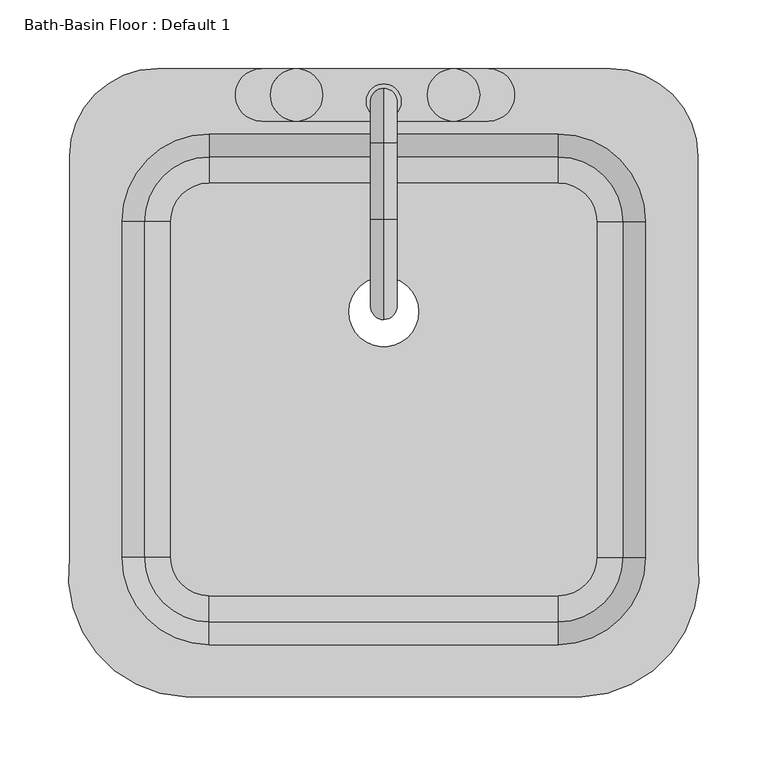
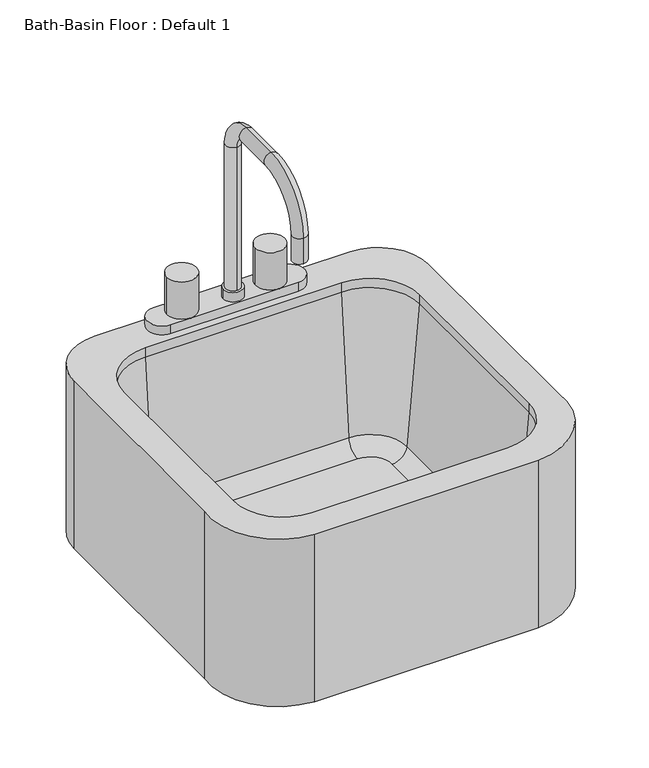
"""IFC4 building model written with IfcOpenShell, lengths in millimetres: flow terminal geometry, Bath-Basin Floor : Default 1."""

from ifc_helpers import new_model, si_unit, point, frame, origin, place, context, project, spatial, polyline, circle_curve, ellipse_curve, trimmed, source, transform, mapped, element, save
from ifc_brep_helpers import plane_surface, cylinder_surface, revolved_surface, advanced_brep


def bath_basin_floor_default_1_66906948(model_context):
    return source(origin(), model_context, "Body", "AdvancedBrep", [
        advanced_brep(
        [(-128.5606923, -277.0545989, 698.5), (-212.9107593, -175.4545982, 698.5), (-212.9107593, 116.6454011, 698.5), (-149.4107593, 180.1454011, 698.5), (180.7892406, 180.1454011, 698.5), (244.2892406, 116.6454011, 698.5), (244.2892406, -175.4545989, 698.5), (159.9391735, -277.0545989, 698.5), (-9.7107594, 3.175, 698.5), (41.0892406, 3.175, 698.5), (170.6776588, 69.0204011, 708.025), (142.6892406, 97.0088193, 708.025), (-111.3107594, 97.0088193, 708.025), (-139.2991776, 69.0204011, 708.025), (-139.2991776, -175.4545989, 708.025), (-111.3107594, -203.4430171, 708.025), (142.6892406, -203.4430171, 708.025), (170.6776588, -175.4545989, 708.025), (-9.7107594, 3.175, 708.025), (41.0892406, 3.175, 708.025), (189.6551678, 69.0204011, 725.4146831), (142.6892406, 115.9863283, 725.4146831), (206.1892406, 69.0204011, 914.4), (142.6892406, 132.5204011, 914.4), (189.6551678, -175.4545989, 725.4146831), (206.1892406, -175.4545989, 914.4), (142.6892406, -222.4205261, 725.4146831), (142.6892406, -238.9545989, 914.4), (-111.3107594, -222.4205261, 725.4146831), (-111.3107594, -238.9545989, 914.4), (-158.2766866, -175.4545989, 725.4146831), (-174.8107594, -175.4545989, 914.4), (-158.2766866, 69.0204011, 725.4146831), (-174.8107594, 69.0204011, 914.4), (-111.3107594, 115.9863283, 725.4146831), (-111.3107594, 132.5204011, 914.4), (-128.5606923, -277.0545989, 927.1), (159.9391735, -277.0545989, 927.1), (244.2892406, -175.4545989, 927.1), (244.2892406, 116.6454011, 927.1), (180.7892406, 180.1454011, 927.1), (-149.4107593, 180.1454011, 927.1), (-212.9107593, 116.6454011, 927.1), (-212.9107593, -175.4545982, 927.1), (142.6892406, 132.5204011, 927.1), (206.1892406, 69.0204011, 927.1), (206.1892406, -175.4545989, 927.1), (142.6892406, -238.9545989, 927.1), (-111.3107594, -238.9545989, 927.1), (-174.8107594, -175.4545989, 927.1), (-174.8107594, 69.0204011, 927.1), (-111.3107594, 132.5204011, 927.1)],
        [
            (0, 1, circle_curve(frame((-124.7534746, -188.0793432, 698.5), z_axis=(0.0, 0.0, -1.0), x_axis=(1.0, 0.0, 0.0)), 89.0566732)),
            (1, 2),
            (2, 3, circle_curve(frame((-149.4107593, 116.6454011, 698.5), z_axis=(0.0, 0.0, -1.0), x_axis=(1.0, 0.0, 0.0)), 63.5)),
            (3, 4),
            (4, 5, circle_curve(frame((180.7892406, 116.6454011, 698.5), z_axis=(0.0, 0.0, -1.0), x_axis=(1.0, 0.0, 0.0)), 63.5)),
            (5, 6),
            (6, 7, circle_curve(frame((156.1319557, -188.0793432, 698.5), z_axis=(0.0, 0.0, -1.0), x_axis=(1.0, 0.0, 0.0)), 89.0566732)),
            (7, 0),
            (8, 9, circle_curve(frame((15.6892406, 3.175, 698.5), z_axis=(0.0, 0.0, 1.0), x_axis=(1.0, 0.0, 0.0)), 25.4)),
            (9, 8, circle_curve(frame((15.6892406, 3.175, 698.5), z_axis=(0.0, 0.0, 1.0), x_axis=(1.0, 0.0, 0.0)), 25.4)),
            (10, 11, circle_curve(frame((142.6892406, 69.0204011, 708.025), z_axis=(0.0, 0.0, 1.0), x_axis=(0.0, 1.0, 0.0)), 27.9884182)),
            (11, 12),
            (12, 13, circle_curve(frame((-111.3107594, 69.0204011, 708.025), z_axis=(0.0, 0.0, 1.0), x_axis=(-1.0, 0.0, 0.0)), 27.9884182)),
            (13, 14),
            (14, 15, circle_curve(frame((-111.3107594, -175.4545989, 708.025), z_axis=(0.0, 0.0, 1.0), x_axis=(0.0, -1.0, 0.0)), 27.9884182)),
            (15, 16),
            (16, 17, circle_curve(frame((142.6892406, -175.4545989, 708.025), z_axis=(0.0, 0.0, 1.0), x_axis=(1.0, 0.0, 0.0)), 27.9884182)),
            (17, 10),
            (18, 19, circle_curve(frame((15.6892406, 3.175, 708.025), z_axis=(0.0, 0.0, -1.0), x_axis=(1.0, 0.0, 0.0)), 25.4)),
            (19, 18, circle_curve(frame((15.6892406, 3.175, 708.025), z_axis=(0.0, 0.0, -1.0), x_axis=(1.0, 0.0, 0.0)), 25.4)),
            (10, 20, circle_curve(frame((170.6776588, 69.0204011, 727.075), z_axis=(0.0, -1.0, 0.0), x_axis=(1.0, 0.0, 0.0)), 19.05)),
            (20, 21, circle_curve(frame((142.6892406, 69.0204011, 725.4146831), z_axis=(0.0, 0.0, 1.0), x_axis=(0.0, 1.0, 0.0)), 46.9659272)),
            (21, 11, circle_curve(frame((142.6892406, 97.0088193, 727.075), z_axis=(-1.0, 0.0, 0.0), x_axis=(0.0, 1.0, 0.0)), 19.05)),
            (20, 22),
            (22, 23, circle_curve(frame((142.6892406, 69.0204011, 914.4), z_axis=(0.0, 0.0, 1.0), x_axis=(0.0, 1.0, 0.0)), 63.5)),
            (23, 21),
            (17, 24, circle_curve(frame((170.6776588, -175.4545989, 727.075), z_axis=(0.0, -1.0, 0.0), x_axis=(1.0, 0.0, 0.0)), 19.05)),
            (24, 20),
            (24, 25),
            (25, 22),
            (16, 26, circle_curve(frame((142.6892406, -203.4430171, 727.075), z_axis=(-1.0, 0.0, 0.0), x_axis=(0.0, -1.0, 0.0)), 19.05)),
            (26, 24, circle_curve(frame((142.6892406, -175.4545989, 725.4146831), z_axis=(0.0, 0.0, 1.0), x_axis=(1.0, 0.0, 0.0)), 46.9659272)),
            (26, 27),
            (27, 25, circle_curve(frame((142.6892406, -175.4545989, 914.4), z_axis=(0.0, 0.0, 1.0), x_axis=(1.0, 0.0, 0.0)), 63.5)),
            (15, 28, circle_curve(frame((-111.3107594, -203.4430171, 727.075), z_axis=(-1.0, 0.0, 0.0), x_axis=(0.0, -1.0, 0.0)), 19.05)),
            (28, 26),
            (28, 29),
            (29, 27),
            (14, 30, circle_curve(frame((-139.2991776, -175.4545989, 727.075), z_axis=(0.0, 1.0, 0.0), x_axis=(-1.0, 0.0, 0.0)), 19.05)),
            (30, 28, circle_curve(frame((-111.3107594, -175.4545989, 725.4146831), z_axis=(0.0, 0.0, 1.0), x_axis=(0.0, -1.0, 0.0)), 46.9659272)),
            (30, 31),
            (31, 29, circle_curve(frame((-111.3107594, -175.4545989, 914.4), z_axis=(0.0, 0.0, 1.0), x_axis=(0.0, -1.0, 0.0)), 63.5)),
            (13, 32, circle_curve(frame((-139.2991776, 69.0204011, 727.075), z_axis=(0.0, 1.0, 0.0), x_axis=(-1.0, 0.0, 0.0)), 19.05)),
            (32, 30),
            (32, 33),
            (33, 31),
            (12, 34, circle_curve(frame((-111.3107594, 97.0088193, 727.075), z_axis=(1.0, 0.0, 0.0), x_axis=(0.0, 1.0, 0.0)), 19.05)),
            (34, 32, circle_curve(frame((-111.3107594, 69.0204011, 725.4146831), z_axis=(0.0, 0.0, 1.0), x_axis=(-1.0, 0.0, 0.0)), 46.9659272)),
            (34, 35),
            (35, 33, circle_curve(frame((-111.3107594, 69.0204011, 914.4), z_axis=(0.0, 0.0, 1.0), x_axis=(-1.0, 0.0, 0.0)), 63.5)),
            (21, 34),
            (23, 35),
            (18, 8),
            (9, 19),
            (36, 37),
            (37, 38, circle_curve(frame((156.1319557, -188.0793432, 927.1), z_axis=(0.0, 0.0, 1.0), x_axis=(1.0, 0.0, 0.0)), 89.0566732)),
            (38, 39),
            (39, 40, circle_curve(frame((180.7892406, 116.6454011, 927.1), z_axis=(0.0, 0.0, 1.0), x_axis=(1.0, 0.0, 0.0)), 63.5)),
            (40, 41),
            (41, 42, circle_curve(frame((-149.4107593, 116.6454011, 927.1), z_axis=(0.0, 0.0, 1.0), x_axis=(1.0, 0.0, 0.0)), 63.5)),
            (42, 43),
            (43, 36, circle_curve(frame((-124.7534746, -188.0793432, 927.1), z_axis=(0.0, 0.0, 1.0), x_axis=(1.0, 0.0, 0.0)), 89.0566732)),
            (44, 45, circle_curve(frame((142.6892406, 69.0204011, 927.1), z_axis=(0.0, 0.0, -1.0), x_axis=(1.0, 0.0, 0.0)), 63.5)),
            (45, 46),
            (46, 47, circle_curve(frame((142.6892406, -175.4545989, 927.1), z_axis=(0.0, 0.0, -1.0), x_axis=(1.0, 0.0, 0.0)), 63.5)),
            (47, 48),
            (48, 49, circle_curve(frame((-111.3107594, -175.4545989, 927.1), z_axis=(0.0, 0.0, -1.0), x_axis=(1.0, 0.0, 0.0)), 63.5)),
            (49, 50),
            (50, 51, circle_curve(frame((-111.3107594, 69.0204011, 927.1), z_axis=(0.0, 0.0, -1.0), x_axis=(1.0, 0.0, 0.0)), 63.5)),
            (51, 44),
            (36, 0),
            (7, 37),
            (6, 38),
            (5, 39),
            (4, 40),
            (3, 41),
            (2, 42),
            (1, 43),
            (44, 23),
            (22, 45),
            (25, 46),
            (27, 47),
            (29, 48),
            (31, 49),
            (33, 50),
            (35, 51),
        ],
        [
            plane_surface(frame((142.6892406, 69.0204011, 698.5), z_axis=(0.0, 0.0, -1.0), x_axis=(0.0, 1.0, 0.0))),
            plane_surface(frame((142.6892406, 69.0204011, 708.025), z_axis=(0.0, 0.0, 1.0), x_axis=(0.0, 1.0, 0.0))),
            revolved_surface(trimmed(ellipse_curve(frame((142.6892406, 97.0088193, 727.075), z_axis=(1.0, 0.0, 0.0), x_axis=(0.0, 1.0, 0.0)), 19.05, 19.05), [point((142.6892406, 97.0088193, 708.025))], [point((142.6892406, 115.9863283, 725.4146831))], True, "CARTESIAN"), (142.6892406, 69.0204011, 0.0), (0.0, 0.0, -1.0)),
            revolved_surface(polyline([(142.6892406, 115.9863283, 725.4146831), (142.6892406, 132.5204011, 914.4)]), (142.6892406, 69.0204011, 0.0), (0.0, 0.0, -1.0)),
            revolved_surface(polyline([(189.7276588, -175.4545989, 727.075), (189.7276588, 69.0204011, 727.075)]), (170.6776588, 69.0204011, 727.075), (0.0, -1.0, 0.0)),
            plane_surface(frame((189.6551678, 69.0204011, 725.4146831), z_axis=(-0.9961946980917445, 0.0, 0.08715574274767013), x_axis=(0.0, -1.0, 0.0))),
            revolved_surface(trimmed(ellipse_curve(frame((170.6776588, -175.4545989, 727.075), z_axis=(0.0, -1.0, 0.0), x_axis=(1.0, 0.0, 0.0)), 19.05, 19.05), [point((170.6776588, -175.4545989, 708.025))], [point((189.6551678, -175.4545989, 725.4146831))], True, "CARTESIAN"), (142.6892406, -175.4545989, 0.0), (0.0, 0.0, -1.0)),
            revolved_surface(polyline([(189.6551678, -175.4545989, 725.4146831), (206.1892406, -175.4545989, 914.4)]), (142.6892406, -175.4545989, 0.0), (0.0, 0.0, -1.0)),
            revolved_surface(polyline([(-111.3107594, -222.4930171, 727.075), (142.6892406, -222.4930171, 727.075)]), (142.6892406, -203.4430171, 727.075), (-1.0, 0.0, 0.0)),
            plane_surface(frame((142.6892406, -222.4205261, 725.4146831), z_axis=(0.0, 0.9961946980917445, 0.08715574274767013), x_axis=(-1.0, 0.0, 0.0))),
            revolved_surface(trimmed(ellipse_curve(frame((-111.3107594, -203.4430171, 727.075), z_axis=(-1.0, 0.0, 0.0), x_axis=(0.0, -1.0, 0.0)), 19.05, 19.05), [point((-111.3107594, -203.4430171, 708.025))], [point((-111.3107594, -222.4205261, 725.4146831))], True, "CARTESIAN"), (-111.3107594, -175.4545989, 0.0), (0.0, 0.0, -1.0)),
            revolved_surface(polyline([(-111.3107594, -222.4205261, 725.4146831), (-111.3107594, -238.9545989, 914.4)]), (-111.3107594, -175.4545989, 0.0), (0.0, 0.0, -1.0)),
            revolved_surface(polyline([(-158.34917760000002, 69.02040110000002, 727.075), (-158.34917760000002, -175.4545989, 727.075)]), (-139.2991776, -175.4545989, 727.075), (0.0, 1.0, 0.0)),
            plane_surface(frame((-158.2766866, -175.4545989, 725.4146831), z_axis=(0.9961946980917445, 0.0, 0.08715574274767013), x_axis=(0.0, 1.0, 0.0))),
            revolved_surface(trimmed(ellipse_curve(frame((-139.2991776, 69.0204011, 727.075), z_axis=(0.0, 1.0, 0.0), x_axis=(-1.0, 0.0, 0.0)), 19.05, 19.05), [point((-139.2991776, 69.0204011, 708.025))], [point((-158.2766866, 69.0204011, 725.4146831))], True, "CARTESIAN"), (-111.3107594, 69.0204011, 0.0), (0.0, 0.0, -1.0)),
            revolved_surface(polyline([(-158.2766866, 69.0204011, 725.4146831), (-174.8107594, 69.0204011, 914.4)]), (-111.3107594, 69.0204011, 0.0), (0.0, 0.0, -1.0)),
            revolved_surface(polyline([(142.6892406, 116.0588193, 727.075), (-111.3107594, 116.0588193, 727.075)]), (-111.3107594, 97.0088193, 727.075), (1.0, 0.0, 0.0)),
            plane_surface(frame((-111.3107594, 115.9863283, 725.4146831), z_axis=(0.0, -0.9961946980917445, 0.08715574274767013), x_axis=(1.0, 0.0, 0.0))),
            revolved_surface(polyline([(41.0892406, 3.175, 698.5), (41.0892406, 3.175, 708.025)]), (15.6892406, 3.175, 0.0), (0.0, 0.0, -1.0)),
            plane_surface(frame((159.9391735, -277.0545989, 927.1), z_axis=(0.0, 0.0, 1.0), x_axis=(1.0, 0.0, 0.0))),
            plane_surface(frame((-128.5606923, -277.0545989, 927.1), z_axis=(0.0, -1.0, 0.0), x_axis=(0.0, 0.0, -1.0))),
            cylinder_surface(frame((156.1319557, -188.0793432, 698.5), z_axis=(0.0, 0.0, 1.0), x_axis=(1.0, 0.0, 0.0)), 89.0566732),
            plane_surface(frame((244.2892406, -175.4545989, 927.1), z_axis=(1.0, 0.0, 0.0), x_axis=(0.0, 0.0, -1.0))),
            cylinder_surface(frame((180.7892406, 116.6454011, 698.5), z_axis=(0.0, 0.0, 1.0), x_axis=(1.0, 0.0, 0.0)), 63.5),
            plane_surface(frame((180.7892406, 180.1454011, 927.1), z_axis=(0.0, 1.0, 0.0), x_axis=(0.0, 0.0, -1.0))),
            cylinder_surface(frame((-149.4107593, 116.6454011, 698.5), z_axis=(0.0, 0.0, 1.0), x_axis=(1.0, 0.0, 0.0)), 63.5),
            plane_surface(frame((-212.9107593, 116.6454011, 927.1), z_axis=(-1.0, 0.0, 0.0), x_axis=(0.0, 0.0, -1.0))),
            cylinder_surface(frame((-124.7534746, -188.0793432, 698.5), z_axis=(0.0, 0.0, 1.0), x_axis=(1.0, 0.0, 0.0)), 89.0566732),
            revolved_surface(polyline([(206.1892406, 69.0204011, 914.4), (206.1892406, 69.0204011, 927.1)]), (142.6892406, 69.0204011, 0.0), (0.0, 0.0, -1.0)),
            plane_surface(frame((206.1892406, 69.0204011, 927.1), z_axis=(-1.0, 0.0, 0.0), x_axis=(0.0, 0.0, -1.0))),
            revolved_surface(polyline([(206.1892406, -175.4545989, 914.4), (206.1892406, -175.4545989, 927.1)]), (142.6892406, -175.4545989, 0.0), (0.0, 0.0, -1.0)),
            plane_surface(frame((142.6892406, -238.9545989, 927.1), z_axis=(0.0, 1.0, 0.0), x_axis=(0.0, 0.0, -1.0))),
            revolved_surface(polyline([(-47.810759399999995, -175.4545989, 914.4), (-47.810759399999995, -175.4545989, 927.1)]), (-111.3107594, -175.4545989, 0.0), (0.0, 0.0, -1.0)),
            plane_surface(frame((-174.8107594, -175.4545989, 927.1), z_axis=(1.0, 0.0, 0.0), x_axis=(0.0, 0.0, -1.0))),
            revolved_surface(polyline([(-47.810759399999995, 69.0204011, 914.4), (-47.810759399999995, 69.0204011, 927.1)]), (-111.3107594, 69.0204011, 0.0), (0.0, 0.0, -1.0)),
            plane_surface(frame((-111.3107594, 132.5204011, 927.1), z_axis=(0.0, -1.0, 0.0), x_axis=(0.0, 0.0, -1.0))),
        ],
        [
            (0, [[1, 2, 3, 4, 5, 6, 7, 8], [9, 10]]),
            (1, [[11, 12, 13, 14, 15, 16, 17, 18], [19, 20]]),
            (2, [[-11, 21, 22, 23]]),
            (3, [[-22, 24, 25, 26]]),
            (4, [[-21, -18, 27, 28]]),
            (5, [[-24, -28, 29, 30]]),
            (6, [[-27, -17, 31, 32]]),
            (7, [[-29, -32, 33, 34]]),
            (8, [[-31, -16, 35, 36]]),
            (9, [[-33, -36, 37, 38]]),
            (10, [[-35, -15, 39, 40]]),
            (11, [[-37, -40, 41, 42]]),
            (12, [[-39, -14, 43, 44]]),
            (13, [[-41, -44, 45, 46]]),
            (14, [[-43, -13, 47, 48]]),
            (15, [[-45, -48, 49, 50]]),
            (16, [[-23, 51, -47, -12]]),
            (17, [[-26, 52, -49, -51]]),
            (18, [[-19, 53, -10, 54]]),
            (18, [[-20, -54, -9, -53]]),
            (19, [[55, 56, 57, 58, 59, 60, 61, 62], [63, 64, 65, 66, 67, 68, 69, 70]]),
            (20, [[-55, 71, -8, 72]]),
            (21, [[-56, -72, -7, 73]]),
            (22, [[-57, -73, -6, 74]]),
            (23, [[-58, -74, -5, 75]]),
            (24, [[-59, -75, -4, 76]]),
            (25, [[-60, -76, -3, 77]]),
            (26, [[-61, -77, -2, 78]]),
            (27, [[-62, -78, -1, -71]]),
            (28, [[-63, 79, -25, 80]]),
            (29, [[-64, -80, -30, 81]]),
            (30, [[-65, -81, -34, 82]]),
            (31, [[-66, -82, -38, 83]]),
            (32, [[-67, -83, -42, 84]]),
            (33, [[-68, -84, -46, 85]]),
            (34, [[-69, -85, -50, 86]]),
            (35, [[-70, -86, -52, -79]]),
        ],
    ),
        advanced_brep(
        [(91.8892406, 180.1454011, 927.1), (91.8892406, 142.0454011, 927.1), (66.4892406, 142.0454011, 927.1), (-47.8107594, 142.0454011, 927.1), (-73.2107594, 142.0454011, 927.1), (-73.2107594, 180.1454011, 927.1), (-47.8107594, 180.1454011, 927.1), (66.4892406, 180.1454011, 927.1), (15.6892406, 165.8579011, 1147.7625), (15.6892406, 146.8079011, 1147.7625), (15.6892406, 146.8079011, 952.5), (15.6892406, 165.8579011, 952.5), (15.6892406, 126.1704011, 1187.45), (15.6892406, 126.1704011, 1168.4), (15.6892406, 70.6079011, 1187.45), (15.6892406, 70.6079011, 1168.4), (15.6892406, -2.4170989, 1114.425), (15.6892406, 16.6329011, 1114.425), (15.6892406, -2.4170989, 1079.5), (15.6892406, 16.6329011, 1079.5), (2.9892406, 156.3329011, 952.5), (28.3892406, 156.3329011, 952.5), (2.9892406, 156.3329011, 939.6), (28.3892406, 156.3329011, 939.6), (-73.2107594, 180.1454011, 939.6), (-73.2107594, 142.0454011, 939.6), (-47.8107594, 142.0454011, 939.6), (-66.8607594, 161.0954011, 939.6), (-47.8107594, 180.1454011, 939.6), (91.8892406, 142.0454011, 939.6), (91.8892406, 180.1454011, 939.6), (66.4892406, 180.1454011, 939.6), (85.5392406, 161.0954011, 939.6), (66.4892406, 142.0454011, 939.6), (-28.7607594, 161.0954011, 939.6), (47.4392406, 161.0954011, 939.6), (-66.8607594, 161.0954011, 990.6), (-28.7607594, 161.0954011, 990.6), (47.4392406, 161.0954011, 990.6), (85.5392406, 161.0954011, 990.6)],
        [
            (0, 1, circle_curve(frame((91.8892406, 161.0954011, 927.1), z_axis=(0.0, 0.0, -1.0), x_axis=(1.0, 0.0, 0.0)), 19.05)),
            (1, 2),
            (2, 3),
            (3, 4),
            (4, 5, circle_curve(frame((-73.2107594, 161.0954011, 927.1), z_axis=(0.0, 0.0, -1.0), x_axis=(1.0, 0.0, 0.0)), 19.05)),
            (5, 6),
            (6, 7),
            (7, 0),
            (8, 9, circle_curve(frame((15.6892406, 156.3329011, 1147.7625), z_axis=(0.0, 0.0, -1.0), x_axis=(0.0, -1.0, 0.0)), 9.525)),
            (9, 10),
            (10, 11, circle_curve(frame((15.6892406, 156.3329011, 952.5), z_axis=(0.0, 0.0, 1.0), x_axis=(0.0, -1.0, 0.0)), 9.525)),
            (11, 8),
            (9, 8, circle_curve(frame((15.6892406, 156.3329011, 1147.7625), z_axis=(0.0, 0.0, -1.0), x_axis=(0.0, -1.0, 0.0)), 9.525)),
            (11, 10, circle_curve(frame((15.6892406, 156.3329011, 952.5), z_axis=(0.0, 0.0, 1.0), x_axis=(0.0, -1.0, 0.0)), 9.525)),
            (8, 12, circle_curve(frame((15.6892406, 126.1704011, 1147.7625), z_axis=(1.0, 0.0, 0.0), x_axis=(0.0, 1.0, 0.0)), 39.6875)),
            (12, 13, circle_curve(frame((15.6892406, 126.1704011, 1177.925), z_axis=(0.0, 1.0, 0.0), x_axis=(0.0, 0.0, -1.0)), 9.525)),
            (13, 9, circle_curve(frame((15.6892406, 126.1704011, 1147.7625), z_axis=(-1.0, 0.0, 0.0), x_axis=(0.0, 1.0, 0.0)), 20.6375)),
            (13, 12, circle_curve(frame((15.6892406, 126.1704011, 1177.925), z_axis=(0.0, 1.0, 0.0), x_axis=(0.0, 0.0, -1.0)), 9.525)),
            (12, 14),
            (14, 15, circle_curve(frame((15.6892406, 70.6079011, 1177.925), z_axis=(0.0, 1.0, 0.0), x_axis=(0.0, 0.0, -1.0)), 9.525)),
            (15, 13),
            (15, 14, circle_curve(frame((15.6892406, 70.6079011, 1177.925), z_axis=(0.0, 1.0, 0.0), x_axis=(0.0, 0.0, -1.0)), 9.525)),
            (14, 16, circle_curve(frame((15.6892406, 70.6079011, 1114.425), z_axis=(1.0, 0.0, 0.0), x_axis=(0.0, 0.0, 1.0)), 73.025)),
            (16, 17, circle_curve(frame((15.6892406, 7.1079011, 1114.425), z_axis=(0.0, 0.0, 1.0), x_axis=(0.0, 1.0, 0.0)), 9.525)),
            (17, 15, circle_curve(frame((15.6892406, 70.6079011, 1114.425), z_axis=(-1.0, 0.0, 0.0), x_axis=(0.0, 0.0, 1.0)), 53.975)),
            (17, 16, circle_curve(frame((15.6892406, 7.1079011, 1114.425), z_axis=(0.0, 0.0, 1.0), x_axis=(0.0, 1.0, 0.0)), 9.525)),
            (18, 19, circle_curve(frame((15.6892406, 7.1079011, 1079.5), z_axis=(0.0, 0.0, -1.0), x_axis=(0.0, 1.0, 0.0)), 9.525)),
            (19, 18, circle_curve(frame((15.6892406, 7.1079011, 1079.5), z_axis=(0.0, 0.0, -1.0), x_axis=(0.0, 1.0, 0.0)), 9.525)),
            (16, 18),
            (19, 17),
            (20, 21, circle_curve(frame((15.6892406, 156.3329011, 952.5), z_axis=(0.0, 0.0, 1.0), x_axis=(1.0, 0.0, 0.0)), 12.7)),
            (21, 20, circle_curve(frame((15.6892406, 156.3329011, 952.5), z_axis=(0.0, 0.0, 1.0), x_axis=(1.0, 0.0, 0.0)), 12.7)),
            (20, 22),
            (22, 23, circle_curve(frame((15.6892406, 156.3329011, 939.6), z_axis=(0.0, 0.0, 1.0), x_axis=(1.0, 0.0, 0.0)), 12.7)),
            (23, 21),
            (23, 22, circle_curve(frame((15.6892406, 156.3329011, 939.6), z_axis=(0.0, 0.0, 1.0), x_axis=(1.0, 0.0, 0.0)), 12.7)),
            (24, 25, circle_curve(frame((-73.2107594, 161.0954011, 939.6), z_axis=(0.0, 0.0, 1.0), x_axis=(1.0, 0.0, 0.0)), 19.05)),
            (25, 26),
            (26, 27, circle_curve(frame((-47.8107594, 161.0954011, 939.6), z_axis=(0.0, 0.0, -1.0), x_axis=(1.0, 0.0, 0.0)), 19.05)),
            (27, 28, circle_curve(frame((-47.8107594, 161.0954011, 939.6), z_axis=(0.0, 0.0, -1.0), x_axis=(1.0, 0.0, 0.0)), 19.05)),
            (28, 24),
            (29, 30, circle_curve(frame((91.8892406, 161.0954011, 939.6), z_axis=(0.0, 0.0, 1.0), x_axis=(1.0, 0.0, 0.0)), 19.05)),
            (30, 31),
            (31, 32, circle_curve(frame((66.4892406, 161.0954011, 939.6), z_axis=(0.0, 0.0, -1.0), x_axis=(1.0, 0.0, 0.0)), 19.05)),
            (32, 33, circle_curve(frame((66.4892406, 161.0954011, 939.6), z_axis=(0.0, 0.0, -1.0), x_axis=(1.0, 0.0, 0.0)), 19.05)),
            (33, 29),
            (31, 28),
            (28, 34, circle_curve(frame((-47.8107594, 161.0954011, 939.6), z_axis=(0.0, 0.0, -1.0), x_axis=(1.0, 0.0, 0.0)), 19.05)),
            (34, 26, circle_curve(frame((-47.8107594, 161.0954011, 939.6), z_axis=(0.0, 0.0, -1.0), x_axis=(1.0, 0.0, 0.0)), 19.05)),
            (26, 33),
            (33, 35, circle_curve(frame((66.4892406, 161.0954011, 939.6), z_axis=(0.0, 0.0, -1.0), x_axis=(1.0, 0.0, 0.0)), 19.05)),
            (35, 31, circle_curve(frame((66.4892406, 161.0954011, 939.6), z_axis=(0.0, 0.0, -1.0), x_axis=(1.0, 0.0, 0.0)), 19.05)),
            (30, 0),
            (5, 24),
            (4, 25),
            (1, 29),
            (36, 37, circle_curve(frame((-47.8107594, 161.0954011, 990.6), z_axis=(0.0, 0.0, 1.0), x_axis=(1.0, 0.0, 0.0)), 19.05)),
            (37, 36, circle_curve(frame((-47.8107594, 161.0954011, 990.6), z_axis=(0.0, 0.0, 1.0), x_axis=(1.0, 0.0, 0.0)), 19.05)),
            (38, 39, circle_curve(frame((66.4892406, 161.0954011, 990.6), z_axis=(0.0, 0.0, 1.0), x_axis=(1.0, 0.0, 0.0)), 19.05)),
            (39, 38, circle_curve(frame((66.4892406, 161.0954011, 990.6), z_axis=(0.0, 0.0, 1.0), x_axis=(1.0, 0.0, 0.0)), 19.05)),
            (36, 27),
            (34, 37),
            (38, 35),
            (32, 39),
        ],
        [
            plane_surface(frame((15.6892406, 146.8079011, 927.1), z_axis=(0.0, 0.0, -1.0), x_axis=(1.0, 0.0, 0.0))),
            cylinder_surface(frame((15.6892406, 156.3329011, 927.1), z_axis=(0.0, 0.0, -1.0), x_axis=(0.0, -1.0, 0.0)), 9.525),
            revolved_surface(trimmed(ellipse_curve(frame((15.6892406, 156.3329011, 1147.7625), z_axis=(0.0, 0.0, -1.0), x_axis=(0.0, -1.0, 0.0)), 9.525, 9.525), [point((15.6892406, 165.8579011, 1147.7625))], [point((15.6892406, 146.8079011, 1147.7625))], True, "CARTESIAN"), (15.6892406, 126.1704011, 1147.7625), (1.0, 0.0, 0.0)),
            revolved_surface(trimmed(ellipse_curve(frame((15.6892406, 156.3329011, 1147.7625), z_axis=(0.0, 0.0, -1.0), x_axis=(0.0, -1.0, 0.0)), 9.525, 9.525), [point((15.6892406, 146.8079011, 1147.7625))], [point((15.6892406, 165.8579011, 1147.7625))], True, "CARTESIAN"), (15.6892406, 126.1704011, 1147.7625), (1.0, 0.0, 0.0)),
            cylinder_surface(frame((15.6892406, 126.1704011, 1177.925), z_axis=(0.0, 1.0, 0.0), x_axis=(0.0, 0.0, -1.0)), 9.525),
            revolved_surface(trimmed(ellipse_curve(frame((15.6892406, 70.6079011, 1177.925), z_axis=(0.0, 1.0, 0.0), x_axis=(0.0, 0.0, -1.0)), 9.525, 9.525), [point((15.6892406, 70.6079011, 1187.45))], [point((15.6892406, 70.6079011, 1168.4))], True, "CARTESIAN"), (15.6892406, 70.6079011, 1114.425), (1.0, 0.0, 0.0)),
            revolved_surface(trimmed(ellipse_curve(frame((15.6892406, 70.6079011, 1177.925), z_axis=(0.0, 1.0, 0.0), x_axis=(0.0, 0.0, -1.0)), 9.525, 9.525), [point((15.6892406, 70.6079011, 1168.4))], [point((15.6892406, 70.6079011, 1187.45))], True, "CARTESIAN"), (15.6892406, 70.6079011, 1114.425), (1.0, 0.0, 0.0)),
            plane_surface(frame((15.6892406, -2.4170989, 1079.5), z_axis=(0.0, 0.0, -1.0), x_axis=(-1.0, 0.0, 0.0))),
            cylinder_surface(frame((15.6892406, 7.1079011, 1114.425), z_axis=(0.0, 0.0, 1.0), x_axis=(0.0, 1.0, 0.0)), 9.525),
            plane_surface(frame((28.3892406, 156.3329011, 952.5), z_axis=(0.0, 0.0, 1.0), x_axis=(0.0, 1.0, 0.0))),
            cylinder_surface(frame((15.6892406, 156.3329011, 927.1), z_axis=(0.0, 0.0, 1.0), x_axis=(1.0, 0.0, 0.0)), 12.7),
            plane_surface(frame((-73.2107594, 180.1454011, 939.6), z_axis=(0.0, 0.0, 1.0), x_axis=(-1.0, 0.0, 0.0))),
            plane_surface(frame((91.8892406, 180.1454011, 939.6), z_axis=(0.0, 1.0, 0.0), x_axis=(0.0, 0.0, -1.0))),
            cylinder_surface(frame((-73.2107594, 161.0954011, 927.1), z_axis=(0.0, 0.0, 1.0), x_axis=(1.0, 0.0, 0.0)), 19.05),
            plane_surface(frame((-73.2107594, 142.0454011, 939.6), z_axis=(0.0, -1.0, 0.0), x_axis=(0.0, 0.0, -1.0))),
            cylinder_surface(frame((91.8892406, 161.0954011, 927.1), z_axis=(0.0, 0.0, 1.0), x_axis=(1.0, 0.0, 0.0)), 19.05),
            plane_surface(frame((-28.7607594, 161.0954011, 990.6), z_axis=(0.0, 0.0, 1.0), x_axis=(0.0, 1.0, 0.0))),
            cylinder_surface(frame((-47.8107594, 161.0954011, 927.1), z_axis=(0.0, 0.0, 1.0), x_axis=(1.0, 0.0, 0.0)), 19.05),
            cylinder_surface(frame((66.4892406, 161.0954011, 0.0), z_axis=(0.0, 0.0, 1.0), x_axis=(1.0, 0.0, 0.0)), 19.05),
        ],
        [
            (0, [[1, 2, 3, 4, 5, 6, 7, 8]]),
            (1, [[9, 10, 11, 12]]),
            (1, [[13, -12, 14, -10]]),
            (2, [[-9, 15, 16, 17]]),
            (3, [[-13, -17, 18, -15]]),
            (4, [[-16, 19, 20, 21]]),
            (4, [[-18, -21, 22, -19]]),
            (5, [[-20, 23, 24, 25]]),
            (6, [[-22, -25, 26, -23]]),
            (7, [[27, 28]]),
            (8, [[-24, 29, -28, 30]]),
            (8, [[-26, -30, -27, -29]]),
            (9, [[31, 32], [-11, -14]]),
            (10, [[-31, 33, 34, 35]]),
            (10, [[-32, -35, 36, -33]]),
            (11, [[37, 38, 39, 40, 41]]),
            (11, [[42, 43, 44, 45, 46]]),
            (11, [[47, 48, 49, 50, 51, 52], [-34, -36]]),
            (12, [[53, -8, -7, -6, 54, -41, -47, -43]]),
            (13, [[-37, -54, -5, 55]]),
            (14, [[-55, -4, -3, -2, 56, -46, -50, -38]]),
            (15, [[-42, -56, -1, -53]]),
            (16, [[57, 58]]),
            (16, [[59, 60]]),
            (17, [[-57, 61, -39, -49, 62]]),
            (17, [[-58, -62, -48, -40, -61]]),
            (18, [[-59, 63, -51, -45, 64]]),
            (18, [[-60, -64, -44, -52, -63]]),
        ],
    ),
    ])


if __name__ == "__main__":
    model = new_model("IFC4")
    model_context = context("Model", 3, world=origin())
    ifc_project = project(units=[si_unit("LENGTHUNIT", "METRE", prefix="MILLI")], contexts=[model_context])
    site = spatial("IfcSite", under=ifc_project)
    building = spatial("IfcBuilding", under=site)
    placement = place(None, origin())
    bath_basin_floor_default_1_shape = bath_basin_floor_default_1_66906948(model_context)
    element("IfcFlowTerminal", 1, ObjectType="Bath-Basin Floor : Default 1", at=placement, inside=building, context=model_context, shape_type="MappedRepresentation", body=[
        mapped(bath_basin_floor_default_1_shape, transform((0.0, 0.0, 0.0), x_axis=(1.0, 0.0, 0.0), y_axis=(0.0, 1.0, 0.0), z_axis=(0.0, 0.0, 1.0))),
    ])
    save(model, "model.ifc")
